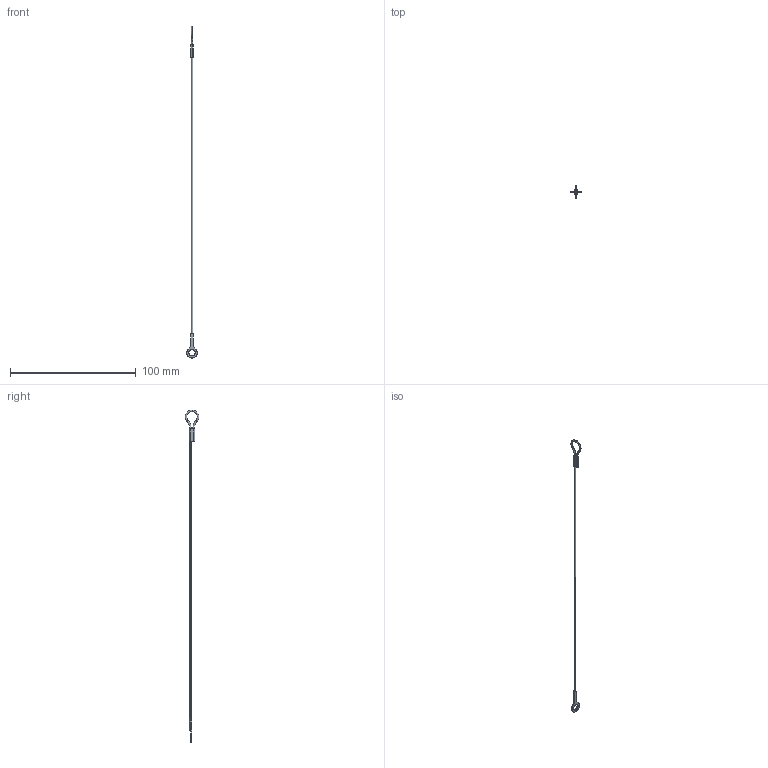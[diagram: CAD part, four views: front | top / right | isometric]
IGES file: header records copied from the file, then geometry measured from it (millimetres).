
Start section: SolidWorks IGES file using analytic representation for surfaces
Global section: file name: C:\Users\ianosborn\Desktop\LA1075_v2\LA1075_v2_20260320_IGES\LA1075.I04-254N1.igs; native system: SolidWorks 2019; preprocessor: SolidWorks 2019; author: IanOsborn; date: 260323.164221; units: millimetre
Bounding box: 8.37 x 10.76 x 263.58 mm (x, y, z)
Surface area: 1267.7 mm2 (no closed solid volume)
Topology: 0 solids, 0 shells, 30 faces, 389 edges, 389 vertices
Faces by surface type: bspline 20, revolution 10
